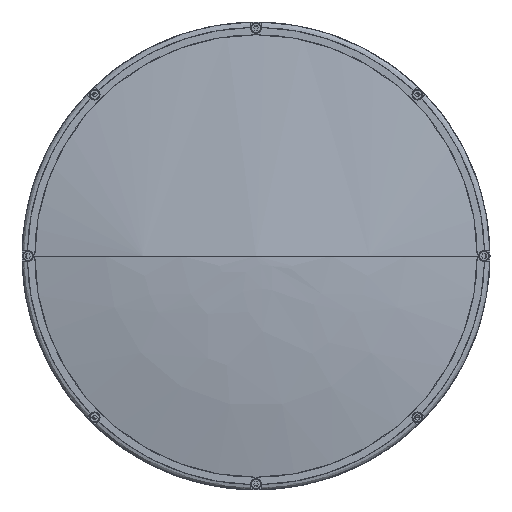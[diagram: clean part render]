
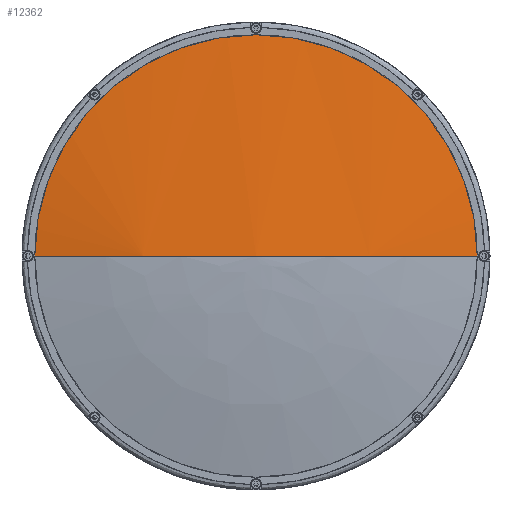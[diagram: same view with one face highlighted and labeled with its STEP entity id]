
A CAD part, left-side view. The second image highlights one B-rep face of the part: STEP entity #12362.
In plain terms, the highlighted face is a revolution surface.
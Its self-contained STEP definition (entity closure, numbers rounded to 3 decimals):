
#12362 = ADVANCED_FACE('',(#12363),#12381,.T.);
#12363 = FACE_BOUND('',#12364,.T.);
#12364 = EDGE_LOOP('',(#12365,#12395,#12414,#12433));
#12365 = ORIENTED_EDGE('',*,*,#12366,.F.);
#12366 = EDGE_CURVE('',#12367,#12369,#12371,.T.);
#12367 = VERTEX_POINT('',#12368);
#12368 = CARTESIAN_POINT('',(-560.373,0.,
    0.));
#12369 = VERTEX_POINT('',#12370);
#12370 = CARTESIAN_POINT('',(-547.362,-124.9,
    0.));
#12371 = SURFACE_CURVE('',#12372,(#12380),.PCURVE_S1.);
#12372 = ( BOUNDED_CURVE() B_SPLINE_CURVE(6,(#12373,#12374,#12375,#12376
    ,#12377,#12378,#12379),.UNSPECIFIED.,.F.,.F.) 
B_SPLINE_CURVE_WITH_KNOTS((7,7),(0.,1.),.PIECEWISE_BEZIER_KNOTS.) CURVE(
) GEOMETRIC_REPRESENTATION_ITEM() RATIONAL_B_SPLINE_CURVE((
    1.001,1.,1.,1.,
1.,1.,1.001)) REPRESENTATION_ITEM('') 
  );
#12373 = CARTESIAN_POINT('',(-560.373,0.,
    0.));
#12374 = CARTESIAN_POINT('',(-560.373,-20.974,
    0.));
#12375 = CARTESIAN_POINT('',(-559.502,-41.94,
    0.));
#12376 = CARTESIAN_POINT('',(-557.761,-62.856,
    0.));
#12377 = CARTESIAN_POINT('',(-555.154,-83.681,
    0.));
#12378 = CARTESIAN_POINT('',(-551.685,-104.376,
    0.));
#12379 = CARTESIAN_POINT('',(-547.362,-124.9,
    0.));
#12380 = PCURVE('',#12381,#12390);
#12381 = SURFACE_OF_REVOLUTION('',#12382,#12387);
#12382 = CIRCLE('',#12383,606.);
#12383 = AXIS2_PLACEMENT_3D('',#12384,#12385,#12386);
#12384 = CARTESIAN_POINT('',(45.627,0.,
    0.));
#12385 = DIRECTION('',(0.,0.,-1.));
#12386 = DIRECTION('',(1.,0.,0.));
#12387 = AXIS1_PLACEMENT('',#12388,#12389);
#12388 = CARTESIAN_POINT('',(45.627,0.,0.));
#12389 = DIRECTION('',(1.,0.,0.));
#12390 = DEFINITIONAL_REPRESENTATION('',(#12391),#12394);
#12391 = B_SPLINE_CURVE_WITH_KNOTS('',1,(#12392,#12393),.UNSPECIFIED.,
  .F.,.F.,(2,2),(0.,1.),.PIECEWISE_BEZIER_KNOTS.);
#12392 = CARTESIAN_POINT('',(6.283,3.142));
#12393 = CARTESIAN_POINT('',(6.283,2.934));
#12394 = ( GEOMETRIC_REPRESENTATION_CONTEXT(2) 
PARAMETRIC_REPRESENTATION_CONTEXT() REPRESENTATION_CONTEXT('',''
  ) );
#12395 = ORIENTED_EDGE('',*,*,#12396,.F.);
#12396 = EDGE_CURVE('',#12397,#12367,#12399,.T.);
#12397 = VERTEX_POINT('',#12398);
#12398 = CARTESIAN_POINT('',(-560.373,0.,
    0.));
#12399 = SURFACE_CURVE('',#12400,(#12408),.PCURVE_S1.);
#12400 = ( BOUNDED_CURVE() B_SPLINE_CURVE(6,(#12401,#12402,#12403,#12404
    ,#12405,#12406,#12407),.UNSPECIFIED.,.F.,.F.) 
B_SPLINE_CURVE_WITH_KNOTS((7,7),(0.,1.),.PIECEWISE_BEZIER_KNOTS.) CURVE(
) GEOMETRIC_REPRESENTATION_ITEM() RATIONAL_B_SPLINE_CURVE((
    1.133,1.036,0.992,0.976,
0.992,1.036,1.133)) REPRESENTATION_ITEM('') 
  );
#12401 = CARTESIAN_POINT('',(-560.373,0.,
    0.));
#12402 = CARTESIAN_POINT('',(-560.373,0.,
    0.));
#12403 = CARTESIAN_POINT('',(-560.373,0.,
    0.));
#12404 = CARTESIAN_POINT('',(-560.373,0.,
    0.));
#12405 = CARTESIAN_POINT('',(-560.373,0.,
    0.));
#12406 = CARTESIAN_POINT('',(-560.373,0.,
    0.));
#12407 = CARTESIAN_POINT('',(-560.373,0.,
    0.));
#12408 = PCURVE('',#12381,#12409);
#12409 = DEFINITIONAL_REPRESENTATION('',(#12410),#12413);
#12410 = B_SPLINE_CURVE_WITH_KNOTS('',1,(#12411,#12412),.UNSPECIFIED.,
  .F.,.F.,(2,2),(0.,1.),.PIECEWISE_BEZIER_KNOTS.);
#12411 = CARTESIAN_POINT('',(3.142,3.142));
#12412 = CARTESIAN_POINT('',(6.283,3.142));
#12413 = ( GEOMETRIC_REPRESENTATION_CONTEXT(2) 
PARAMETRIC_REPRESENTATION_CONTEXT() REPRESENTATION_CONTEXT('',''
  ) );
#12414 = ORIENTED_EDGE('',*,*,#12415,.F.);
#12415 = EDGE_CURVE('',#12416,#12397,#12418,.T.);
#12416 = VERTEX_POINT('',#12417);
#12417 = CARTESIAN_POINT('',(-547.362,124.9,
    0.));
#12418 = SURFACE_CURVE('',#12419,(#12427),.PCURVE_S1.);
#12419 = ( BOUNDED_CURVE() B_SPLINE_CURVE(6,(#12420,#12421,#12422,#12423
    ,#12424,#12425,#12426),.UNSPECIFIED.,.F.,.F.) 
B_SPLINE_CURVE_WITH_KNOTS((7,7),(0.,1.),.PIECEWISE_BEZIER_KNOTS.) CURVE(
) GEOMETRIC_REPRESENTATION_ITEM() RATIONAL_B_SPLINE_CURVE((
    1.001,1.,1.,1.,
1.,1.,1.001)) REPRESENTATION_ITEM('') 
  );
#12420 = CARTESIAN_POINT('',(-547.362,124.9,
    0.));
#12421 = CARTESIAN_POINT('',(-551.685,104.376,
    0.));
#12422 = CARTESIAN_POINT('',(-555.154,83.681,
    0.));
#12423 = CARTESIAN_POINT('',(-557.761,62.856,
    0.));
#12424 = CARTESIAN_POINT('',(-559.502,41.94,
    0.));
#12425 = CARTESIAN_POINT('',(-560.373,20.974,
    0.));
#12426 = CARTESIAN_POINT('',(-560.373,0.,
    0.));
#12427 = PCURVE('',#12381,#12428);
#12428 = DEFINITIONAL_REPRESENTATION('',(#12429),#12432);
#12429 = B_SPLINE_CURVE_WITH_KNOTS('',1,(#12430,#12431),.UNSPECIFIED.,
  .F.,.F.,(2,2),(0.,1.),.PIECEWISE_BEZIER_KNOTS.);
#12430 = CARTESIAN_POINT('',(3.142,2.934));
#12431 = CARTESIAN_POINT('',(3.142,3.142));
#12432 = ( GEOMETRIC_REPRESENTATION_CONTEXT(2) 
PARAMETRIC_REPRESENTATION_CONTEXT() REPRESENTATION_CONTEXT('',''
  ) );
#12433 = ORIENTED_EDGE('',*,*,#12434,.F.);
#12434 = EDGE_CURVE('',#12369,#12416,#12435,.T.);
#12435 = SURFACE_CURVE('',#12436,(#12448),.PCURVE_S1.);
#12436 = B_SPLINE_CURVE_WITH_KNOTS('',10,(#12437,#12438,#12439,#12440,
    #12441,#12442,#12443,#12444,#12445,#12446,#12447),.UNSPECIFIED.,.F.,
  .F.,(11,11),(0.,1.),.PIECEWISE_BEZIER_KNOTS.);
#12437 = CARTESIAN_POINT('',(-547.362,-124.9,
    0.));
#12438 = CARTESIAN_POINT('',(-547.362,-124.9,
    39.238));
#12439 = CARTESIAN_POINT('',(-547.362,-111.203,
    78.477));
#12440 = CARTESIAN_POINT('',(-547.362,-83.809,
    112.337));
#12441 = CARTESIAN_POINT('',(-547.362,-45.134,
    135.439));
#12442 = CARTESIAN_POINT('',(-547.362,0.,
    143.67));
#12443 = CARTESIAN_POINT('',(-547.362,45.134,
    135.439));
#12444 = CARTESIAN_POINT('',(-547.362,83.809,
    112.337));
#12445 = CARTESIAN_POINT('',(-547.362,111.203,
    78.477));
#12446 = CARTESIAN_POINT('',(-547.362,124.9,
    39.238));
#12447 = CARTESIAN_POINT('',(-547.362,124.9,
    0.));
#12448 = PCURVE('',#12381,#12449);
#12449 = DEFINITIONAL_REPRESENTATION('',(#12450),#12453);
#12450 = B_SPLINE_CURVE_WITH_KNOTS('',1,(#12451,#12452),.UNSPECIFIED.,
  .F.,.F.,(2,2),(0.,1.),.PIECEWISE_BEZIER_KNOTS.);
#12451 = CARTESIAN_POINT('',(6.283,2.934));
#12452 = CARTESIAN_POINT('',(3.142,2.934));
#12453 = ( GEOMETRIC_REPRESENTATION_CONTEXT(2) 
PARAMETRIC_REPRESENTATION_CONTEXT() REPRESENTATION_CONTEXT('',''
  ) );
